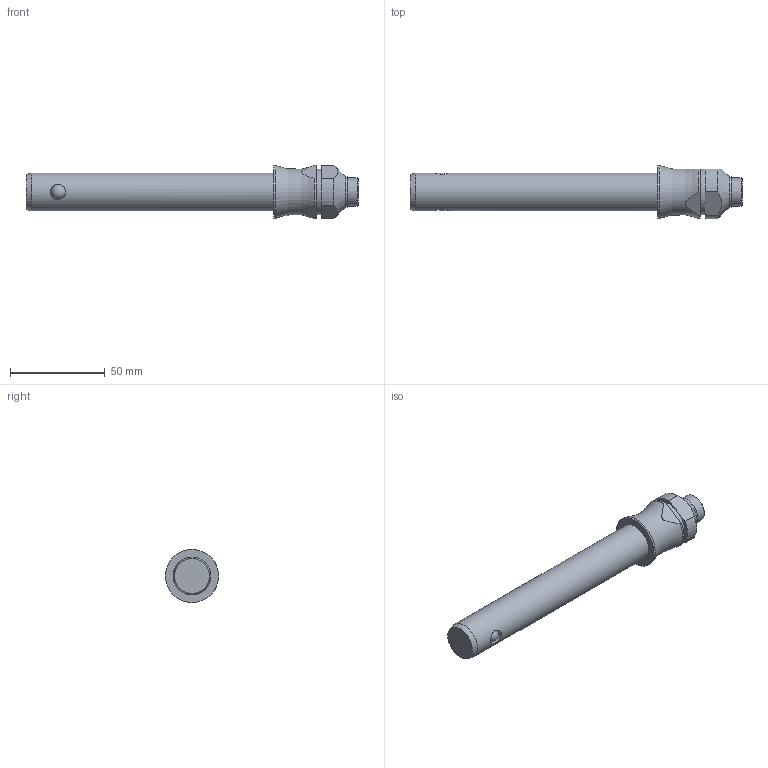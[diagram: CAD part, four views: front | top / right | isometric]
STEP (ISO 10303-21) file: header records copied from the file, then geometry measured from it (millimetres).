
FILE_DESCRIPTION( ( 'STEP AP203' ), '1' );
FILE_NAME( 'C:/Temp/Ganter_Step_05_03_2020/data/3_1/gn113_3/Stainless Steel-Ball lock pin GN 113.3-20-110 (activated).stp', '2020-03-12T08:19:06', ( 'License CC BY-ND 4.0' ), ( 'CADENAS' ), ' ', 'PARTsolutions', ' ' );
FILE_SCHEMA( ( 'CONFIG_CONTROL_DESIGN' ) );
Length unit declared in the file: millimetre
Products named in the file (1): _Stainless Steel-Ball lock pin GN 113.3-20-110 (activated)
Bounding box: 175.05 x 28 x 28 mm (x, y, z)
Volume: 60563.3 mm3; surface area: 12929.7 mm2
Topology: 1 solids, 1 shells, 31 faces, 74 edges, 46 vertices
Faces by surface type: cylinder 13, plane 11, cone 4, sphere 2, torus 1
Full cylindrical faces by diameter (mm): 8 x2, 15 x1, 16 x1, 20 x1, 24 x1, 28 x1
Entity records: 1054 total; most frequent: CARTESIAN_POINT 390, DIRECTION 134, ORIENTED_EDGE 104, AXIS2_PLACEMENT_3D 58, EDGE_CURVE 52, EDGE_LOOP 48, VERTEX_POINT 40, FACE_OUTER_BOUND 39
